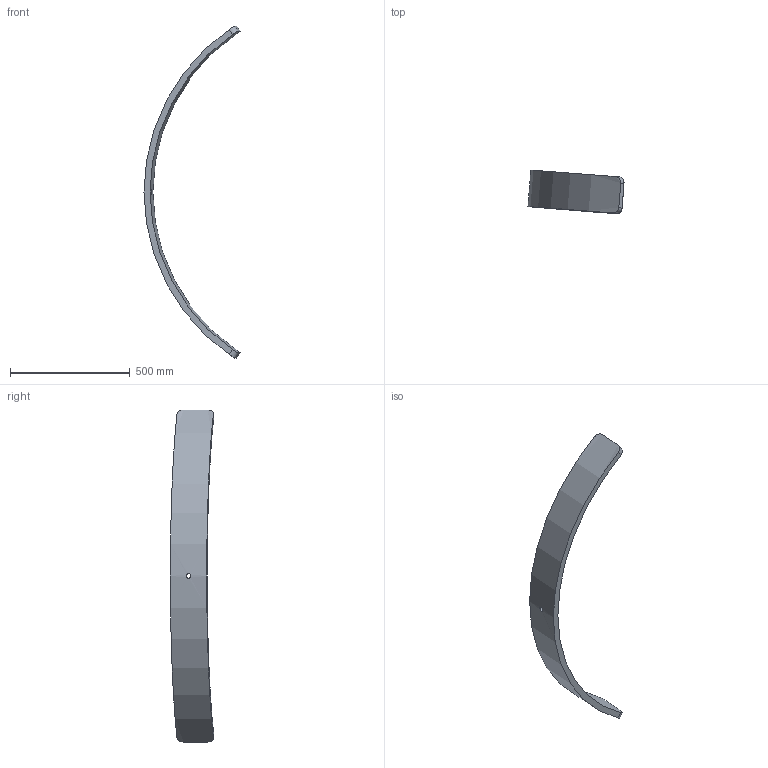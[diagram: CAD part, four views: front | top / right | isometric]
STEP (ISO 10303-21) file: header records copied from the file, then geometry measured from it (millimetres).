
FILE_DESCRIPTION (( 'STEP AP214' ), '1' );
FILE_NAME ('Section 4 AR.STEP', '2025-01-09T19:43:27', ( '' ), ( '' ), 'SwSTEP 2.0', 'SolidWorks 2024', '' );
FILE_SCHEMA (( 'AUTOMOTIVE_DESIGN' ));
Length unit declared in the file: inch
Products named in the file (1): Section 4 AR
Bounding box: 401.13 x 181.09 x 1386.68 mm (x, y, z)
Volume: 6258057.6 mm3; surface area: 583356.1 mm2
Topology: 1 solids, 1 shells, 11 faces, 27 edges, 18 vertices
Faces by surface type: cylinder 7, plane 4
Full cylindrical faces by diameter (mm): 19.431 x1
Entity records: 745 total; most frequent: CARTESIAN_POINT 470, ORIENTED_EDGE 52, DIRECTION 44, EDGE_CURVE 26, VERTEX_POINT 18, AXIS2_PLACEMENT_3D 16, EDGE_LOOP 14, VECTOR 12
